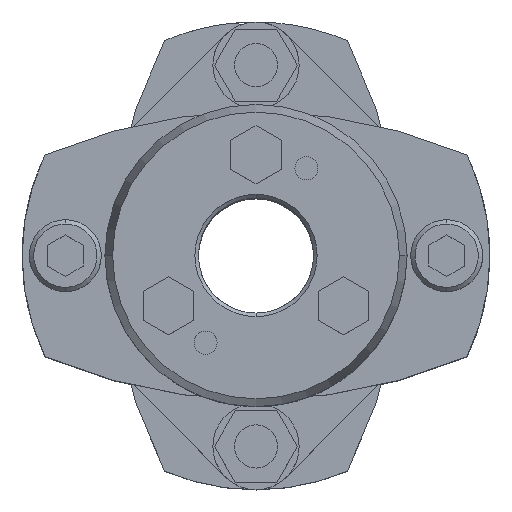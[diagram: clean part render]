
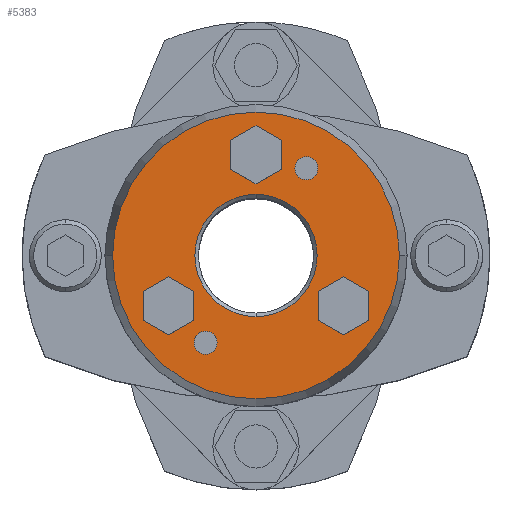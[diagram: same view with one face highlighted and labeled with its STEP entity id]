
A CAD part, top view. The second image highlights one B-rep face of the part: STEP entity #5383.
In plain terms, the highlighted planar face has unit normal (0, 0, 1).
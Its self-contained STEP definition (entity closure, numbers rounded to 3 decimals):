
#1783=CARTESIAN_POINT('',(-19.928,0.,40.0));
#1784=VERTEX_POINT('',#1783);
#1791=CARTESIAN_POINT('',(19.928,0.,40.0));
#1792=VERTEX_POINT('',#1791);
#1793=CARTESIAN_POINT('',(0.,0.,40.0));
#1794=DIRECTION('',(0.0,0.0,-1.0));
#1795=DIRECTION('',(-1.0,0.0,0.0));
#1796=AXIS2_PLACEMENT_3D('',#1793,#1794,#1795);
#1797=CIRCLE('',#1796,19.928);
#1798=EDGE_CURVE('',#1784,#1792,#1797,.T.);
#1893=CARTESIAN_POINT('',(0.,8.5,40.0));
#1894=VERTEX_POINT('',#1893);
#1910=CARTESIAN_POINT('',(0.,-8.5,40.0));
#1911=VERTEX_POINT('',#1910);
#1918=CARTESIAN_POINT('',(0.,0.,40.0));
#1919=DIRECTION('',(0.0,0.0,1.0));
#1920=DIRECTION('',(0.0,1.0,0.0));
#1921=AXIS2_PLACEMENT_3D('',#1918,#1919,#1920);
#1922=CIRCLE('',#1921,8.5);
#1923=EDGE_CURVE('',#1911,#1894,#1922,.T.);
#2041=CARTESIAN_POINT('',(7.,13.724,40.0));
#2042=VERTEX_POINT('',#2041);
#2058=CARTESIAN_POINT('',(7.,10.524,40.0));
#2059=VERTEX_POINT('',#2058);
#2066=CARTESIAN_POINT('',(7.,12.124,40.0));
#2067=DIRECTION('',(0.0,0.0,-1.0));
#2068=DIRECTION('',(0.0,1.0,0.0));
#2069=AXIS2_PLACEMENT_3D('',#2066,#2067,#2068);
#2070=CIRCLE('',#2069,1.6);
#2071=EDGE_CURVE('',#2042,#2059,#2070,.T.);
#2083=CARTESIAN_POINT('',(-7.,-10.524,40.0));
#2084=VERTEX_POINT('',#2083);
#2100=CARTESIAN_POINT('',(-7.,-13.724,40.0));
#2101=VERTEX_POINT('',#2100);
#2108=CARTESIAN_POINT('',(-7.,-12.124,40.0));
#2109=DIRECTION('',(0.0,0.0,-1.0));
#2110=DIRECTION('',(0.0,1.0,0.0));
#2111=AXIS2_PLACEMENT_3D('',#2108,#2109,#2110);
#2112=CIRCLE('',#2111,1.6);
#2113=EDGE_CURVE('',#2084,#2101,#2112,.T.);
#4586=CARTESIAN_POINT('',(-7.,-12.124,40.0));
#4587=DIRECTION('',(0.0,0.0,-1.0));
#4588=DIRECTION('',(0.0,1.0,0.0));
#4589=AXIS2_PLACEMENT_3D('',#4586,#4587,#4588);
#4590=CIRCLE('',#4589,1.6);
#4591=EDGE_CURVE('',#2101,#2084,#4590,.T.);
#4620=CARTESIAN_POINT('',(7.,12.124,40.0));
#4621=DIRECTION('',(0.0,0.0,-1.0));
#4622=DIRECTION('',(0.0,1.0,0.0));
#4623=AXIS2_PLACEMENT_3D('',#4620,#4621,#4622);
#4624=CIRCLE('',#4623,1.6);
#4625=EDGE_CURVE('',#2059,#2042,#4624,.T.);
#4663=CARTESIAN_POINT('',(0.,18.041,40.0));
#4664=VERTEX_POINT('',#4663);
#4671=CARTESIAN_POINT('',(-3.5,16.021,40.0));
#4672=VERTEX_POINT('',#4671);
#4673=CARTESIAN_POINT('',(-3.5,16.021,40.0));
#4674=DIRECTION('',(0.866,0.5,0.0));
#4675=VECTOR('',#4674,4.041);
#4676=LINE('',#4673,#4675);
#4677=EDGE_CURVE('',#4672,#4664,#4676,.T.);
#4701=CARTESIAN_POINT('',(3.5,16.021,40.0));
#4702=VERTEX_POINT('',#4701);
#4709=CARTESIAN_POINT('',(0.,18.041,40.0));
#4710=DIRECTION('',(0.866,-0.5,0.0));
#4711=VECTOR('',#4710,4.041);
#4712=LINE('',#4709,#4711);
#4713=EDGE_CURVE('',#4664,#4702,#4712,.T.);
#4732=CARTESIAN_POINT('',(3.5,11.979,40.0));
#4733=VERTEX_POINT('',#4732);
#4740=CARTESIAN_POINT('',(3.5,16.021,40.0));
#4741=DIRECTION('',(0.0,-1.0,0.0));
#4742=VECTOR('',#4741,4.041);
#4743=LINE('',#4740,#4742);
#4744=EDGE_CURVE('',#4702,#4733,#4743,.T.);
#4763=CARTESIAN_POINT('',(0.,9.959,40.0));
#4764=VERTEX_POINT('',#4763);
#4771=CARTESIAN_POINT('',(3.5,11.979,40.0));
#4772=DIRECTION('',(-0.866,-0.5,0.0));
#4773=VECTOR('',#4772,4.041);
#4774=LINE('',#4771,#4773);
#4775=EDGE_CURVE('',#4733,#4764,#4774,.T.);
#4794=CARTESIAN_POINT('',(-3.5,11.979,40.0));
#4795=VERTEX_POINT('',#4794);
#4802=CARTESIAN_POINT('',(0.,9.959,40.0));
#4803=DIRECTION('',(-0.866,0.5,0.0));
#4804=VECTOR('',#4803,4.041);
#4805=LINE('',#4802,#4804);
#4806=EDGE_CURVE('',#4764,#4795,#4805,.T.);
#4824=CARTESIAN_POINT('',(-3.5,11.979,40.0));
#4825=DIRECTION('',(0.0,1.0,0.0));
#4826=VECTOR('',#4825,4.041);
#4827=LINE('',#4824,#4826);
#4828=EDGE_CURVE('',#4795,#4672,#4827,.T.);
#4863=CARTESIAN_POINT('',(-12.124,-2.959,40.0));
#4864=VERTEX_POINT('',#4863);
#4871=CARTESIAN_POINT('',(-15.624,-4.979,40.0));
#4872=VERTEX_POINT('',#4871);
#4873=CARTESIAN_POINT('',(-15.624,-4.979,40.0));
#4874=DIRECTION('',(0.866,0.5,0.0));
#4875=VECTOR('',#4874,4.041);
#4876=LINE('',#4873,#4875);
#4877=EDGE_CURVE('',#4872,#4864,#4876,.T.);
#4901=CARTESIAN_POINT('',(-8.624,-4.979,40.0));
#4902=VERTEX_POINT('',#4901);
#4909=CARTESIAN_POINT('',(-12.124,-2.959,40.0));
#4910=DIRECTION('',(0.866,-0.5,0.0));
#4911=VECTOR('',#4910,4.041);
#4912=LINE('',#4909,#4911);
#4913=EDGE_CURVE('',#4864,#4902,#4912,.T.);
#4932=CARTESIAN_POINT('',(-8.624,-9.021,40.0));
#4933=VERTEX_POINT('',#4932);
#4940=CARTESIAN_POINT('',(-8.624,-4.979,40.0));
#4941=DIRECTION('',(0.0,-1.0,0.0));
#4942=VECTOR('',#4941,4.041);
#4943=LINE('',#4940,#4942);
#4944=EDGE_CURVE('',#4902,#4933,#4943,.T.);
#4963=CARTESIAN_POINT('',(-12.124,-11.041,40.0));
#4964=VERTEX_POINT('',#4963);
#4971=CARTESIAN_POINT('',(-8.624,-9.021,40.0));
#4972=DIRECTION('',(-0.866,-0.5,0.0));
#4973=VECTOR('',#4972,4.041);
#4974=LINE('',#4971,#4973);
#4975=EDGE_CURVE('',#4933,#4964,#4974,.T.);
#4994=CARTESIAN_POINT('',(-15.624,-9.021,40.0));
#4995=VERTEX_POINT('',#4994);
#5002=CARTESIAN_POINT('',(-12.124,-11.041,40.0));
#5003=DIRECTION('',(-0.866,0.5,0.0));
#5004=VECTOR('',#5003,4.041);
#5005=LINE('',#5002,#5004);
#5006=EDGE_CURVE('',#4964,#4995,#5005,.T.);
#5024=CARTESIAN_POINT('',(-15.624,-9.021,40.0));
#5025=DIRECTION('',(0.0,1.0,0.0));
#5026=VECTOR('',#5025,4.041);
#5027=LINE('',#5024,#5026);
#5028=EDGE_CURVE('',#4995,#4872,#5027,.T.);
#5063=CARTESIAN_POINT('',(12.124,-2.959,40.0));
#5064=VERTEX_POINT('',#5063);
#5071=CARTESIAN_POINT('',(8.624,-4.979,40.0));
#5072=VERTEX_POINT('',#5071);
#5073=CARTESIAN_POINT('',(8.624,-4.979,40.0));
#5074=DIRECTION('',(0.866,0.5,0.0));
#5075=VECTOR('',#5074,4.041);
#5076=LINE('',#5073,#5075);
#5077=EDGE_CURVE('',#5072,#5064,#5076,.T.);
#5101=CARTESIAN_POINT('',(15.624,-4.979,40.0));
#5102=VERTEX_POINT('',#5101);
#5109=CARTESIAN_POINT('',(12.124,-2.959,40.0));
#5110=DIRECTION('',(0.866,-0.5,0.0));
#5111=VECTOR('',#5110,4.041);
#5112=LINE('',#5109,#5111);
#5113=EDGE_CURVE('',#5064,#5102,#5112,.T.);
#5132=CARTESIAN_POINT('',(15.624,-9.021,40.0));
#5133=VERTEX_POINT('',#5132);
#5140=CARTESIAN_POINT('',(15.624,-4.979,40.0));
#5141=DIRECTION('',(0.0,-1.0,0.0));
#5142=VECTOR('',#5141,4.041);
#5143=LINE('',#5140,#5142);
#5144=EDGE_CURVE('',#5102,#5133,#5143,.T.);
#5163=CARTESIAN_POINT('',(12.124,-11.041,40.0));
#5164=VERTEX_POINT('',#5163);
#5171=CARTESIAN_POINT('',(15.624,-9.021,40.0));
#5172=DIRECTION('',(-0.866,-0.5,0.0));
#5173=VECTOR('',#5172,4.041);
#5174=LINE('',#5171,#5173);
#5175=EDGE_CURVE('',#5133,#5164,#5174,.T.);
#5194=CARTESIAN_POINT('',(8.624,-9.021,40.0));
#5195=VERTEX_POINT('',#5194);
#5202=CARTESIAN_POINT('',(12.124,-11.041,40.0));
#5203=DIRECTION('',(-0.866,0.5,0.0));
#5204=VECTOR('',#5203,4.041);
#5205=LINE('',#5202,#5204);
#5206=EDGE_CURVE('',#5164,#5195,#5205,.T.);
#5224=CARTESIAN_POINT('',(8.624,-9.021,40.0));
#5225=DIRECTION('',(0.0,1.0,0.0));
#5226=VECTOR('',#5225,4.041);
#5227=LINE('',#5224,#5226);
#5228=EDGE_CURVE('',#5195,#5072,#5227,.T.);
#5320=CARTESIAN_POINT('',(0.,0.,40.0));
#5321=DIRECTION('',(0.0,0.0,1.0));
#5322=DIRECTION('',(0.0,1.0,0.0));
#5323=AXIS2_PLACEMENT_3D('',#5320,#5321,#5322);
#5324=CIRCLE('',#5323,8.5);
#5325=EDGE_CURVE('',#1894,#1911,#5324,.T.);
#5332=CARTESIAN_POINT('',(-9.964,0.,40.0));
#5333=DIRECTION('',(0.0,0.0,1.0));
#5334=DIRECTION('',(0.0,1.0,0.0));
#5335=AXIS2_PLACEMENT_3D('',#5332,#5333,#5334);
#5336=PLANE('',#5335);
#5337=ORIENTED_EDGE('',*,*,#1798,.F.);
#5338=CARTESIAN_POINT('',(0.,0.,40.0));
#5339=DIRECTION('',(0.0,0.0,-1.0));
#5340=DIRECTION('',(-1.0,0.0,0.0));
#5341=AXIS2_PLACEMENT_3D('',#5338,#5339,#5340);
#5342=CIRCLE('',#5341,19.928);
#5343=EDGE_CURVE('',#1792,#1784,#5342,.T.);
#5344=ORIENTED_EDGE('',*,*,#5343,.F.);
#5345=EDGE_LOOP('',(#5337,#5344));
#5346=FACE_OUTER_BOUND('',#5345,.T.);
#5347=ORIENTED_EDGE('',*,*,#2113,.T.);
#5348=ORIENTED_EDGE('',*,*,#4591,.T.);
#5349=EDGE_LOOP('',(#5347,#5348));
#5350=FACE_BOUND('',#5349,.T.);
#5351=ORIENTED_EDGE('',*,*,#2071,.T.);
#5352=ORIENTED_EDGE('',*,*,#4625,.T.);
#5353=EDGE_LOOP('',(#5351,#5352));
#5354=FACE_BOUND('',#5353,.T.);
#5355=ORIENTED_EDGE('',*,*,#4677,.T.);
#5356=ORIENTED_EDGE('',*,*,#4713,.T.);
#5357=ORIENTED_EDGE('',*,*,#4744,.T.);
#5358=ORIENTED_EDGE('',*,*,#4775,.T.);
#5359=ORIENTED_EDGE('',*,*,#4806,.T.);
#5360=ORIENTED_EDGE('',*,*,#4828,.T.);
#5361=EDGE_LOOP('',(#5355,#5356,#5357,#5358,#5359,#5360));
#5362=FACE_BOUND('',#5361,.T.);
#5363=ORIENTED_EDGE('',*,*,#4877,.T.);
#5364=ORIENTED_EDGE('',*,*,#4913,.T.);
#5365=ORIENTED_EDGE('',*,*,#4944,.T.);
#5366=ORIENTED_EDGE('',*,*,#4975,.T.);
#5367=ORIENTED_EDGE('',*,*,#5006,.T.);
#5368=ORIENTED_EDGE('',*,*,#5028,.T.);
#5369=EDGE_LOOP('',(#5363,#5364,#5365,#5366,#5367,#5368));
#5370=FACE_BOUND('',#5369,.T.);
#5371=ORIENTED_EDGE('',*,*,#5077,.T.);
#5372=ORIENTED_EDGE('',*,*,#5113,.T.);
#5373=ORIENTED_EDGE('',*,*,#5144,.T.);
#5374=ORIENTED_EDGE('',*,*,#5175,.T.);
#5375=ORIENTED_EDGE('',*,*,#5206,.T.);
#5376=ORIENTED_EDGE('',*,*,#5228,.T.);
#5377=EDGE_LOOP('',(#5371,#5372,#5373,#5374,#5375,#5376));
#5378=FACE_BOUND('',#5377,.T.);
#5379=ORIENTED_EDGE('',*,*,#1923,.F.);
#5380=ORIENTED_EDGE('',*,*,#5325,.F.);
#5381=EDGE_LOOP('',(#5379,#5380));
#5382=FACE_BOUND('',#5381,.T.);
#5383=ADVANCED_FACE('',(#5346,#5350,#5354,#5362,#5370,#5378,#5382),#5336,.T.);
